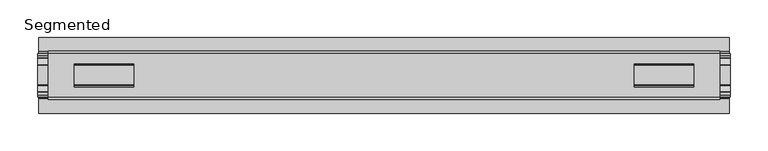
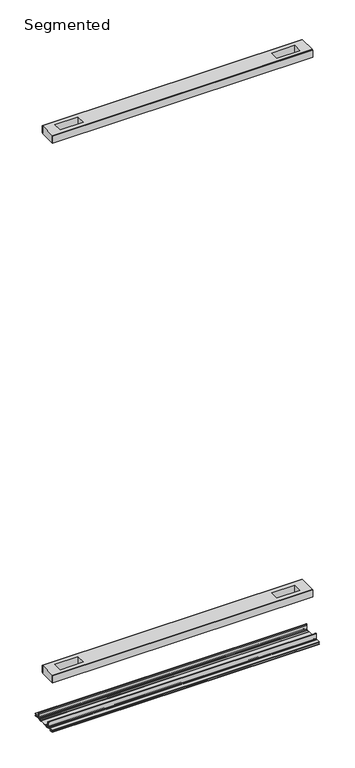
"""IFC4 building model written with IfcOpenShell, lengths in millimetres: proxy geometry, Frame-Teknion-FHCRA-Horizontal_Rail-R2022 : Segmented."""

from ifc_helpers import new_model, si_unit, point, frame, frame_2d, origin, place, context, project, spatial, polyline, circle_curve, trimmed, segment, composite_curve, outline, extrude, source, transform, mapped, element, save


def segmented_248272e7(model_context):
    return source(origin(), model_context, "Body", "SweptSolid", [
        extrude(outline(polyline([(445.1901765, -29.0068005), (445.1901765, -32.1817997), (-445.1901765, -32.1817997), (-445.1901765, -29.0068005), (445.1901765, -29.0068005)])), frame((0.0, 0.0, 2107.0117561), z_axis=(0.0, 0.0, 1.0), x_axis=(1.0, 0.0, 0.0)), (0.0, 0.0, 1.0), 25.3999939),
        extrude(outline(polyline([(445.1901765, 32.1817997), (445.1901765, 29.0068005), (-445.1901765, 29.0068005), (-445.1901765, 32.1817997), (445.1901765, 32.1817997)])), frame((0.0, 0.0, 2107.0117561), z_axis=(0.0, 0.0, 1.0), x_axis=(1.0, 0.0, 0.0)), (0.0, 0.0, 1.0), 25.3999939),
        extrude(outline(polyline([(445.1901765, 29.0068005), (445.1901765, -29.0068005), (-445.1901765, -29.0068005), (-445.1901765, 29.0068005), (445.1901765, 29.0068005)]), holes=[polyline([(410.7731639, 15.1130038), (331.7283521, 15.1130038), (331.7283521, -15.875003), (410.7731639, -15.875003), (410.7731639, 15.1130038)]), polyline([(-410.7731639, 15.1130038), (-410.7731639, -15.875003), (-331.7283521, -15.875003), (-331.7283521, 15.1130038), (-410.7731639, 15.1130038)])]), frame((0.0, 0.0, 2105.5901786), z_axis=(0.0, 0.0, 1.0), x_axis=(1.0, 0.0, 0.0)), (0.0, 0.0, 1.0), 27.9999988),
        extrude(outline(polyline([(445.1901765, -29.0068005), (445.1901765, -32.1817997), (-445.1901765, -32.1817997), (-445.1901765, -29.0068005), (445.1901765, -29.0068005)])), frame((0.0, 0.0, 149.8401622), z_axis=(0.0, 0.0, 1.0), x_axis=(1.0, 0.0, 0.0)), (0.0, 0.0, 1.0), 25.3999939),
        extrude(outline(polyline([(445.1901765, 32.1817997), (445.1901765, 29.0068005), (-445.1901765, 29.0068005), (-445.1901765, 32.1817997), (445.1901765, 32.1817997)])), frame((0.0, 0.0, 149.8401622), z_axis=(0.0, 0.0, 1.0), x_axis=(1.0, 0.0, 0.0)), (0.0, 0.0, 1.0), 25.3999939),
        extrude(outline(polyline([(445.1901765, 29.0068005), (445.1901765, -29.0068005), (-445.1901765, -29.0068005), (-445.1901765, 29.0068005), (445.1901765, 29.0068005)]), holes=[polyline([(410.7731639, 15.1130038), (331.7283521, 15.1130038), (331.7283521, -15.875003), (410.7731639, -15.875003), (410.7731639, 15.1130038)]), polyline([(-410.7731639, 15.1130038), (-410.7731639, -15.875003), (-331.7283521, -15.875003), (-331.7283521, 15.1130038), (-410.7731639, 15.1130038)])]), frame((0.0, 0.0, 148.4185847), z_axis=(0.0, 0.0, 1.0), x_axis=(1.0, 0.0, 0.0)), (0.0, 0.0, 1.0), 27.9999988),
        extrude(outline(composite_curve([segment(polyline([(-28.8162961, -7.7516037), (-28.8162961, 9.8607558)]), True, "CONTINUOUS"), segment(trimmed(circle_curve(frame_2d((-27.5970982, 9.8607558)), 1.2191979), [point((-28.8162961, 9.8607558))], [point((-26.3779003, 9.8607558))], False, "CARTESIAN"), True, "CONTINUOUS"), segment(polyline([(-26.3779003, 9.8607558), (-26.3779003, 5.9999563), (-27.6580769, 5.9999563), (-27.6580769, -7.7516037)]), True, "CONTINUOUS"), segment(trimmed(circle_curve(frame_2d((-26.6420561, -7.7516037)), 1.0160208), [point((-27.6580769, -7.7516037))], [point((-26.6485732, -8.7676036))], True, "CARTESIAN"), True, "CONTINUOUS"), segment(polyline([(-26.6485732, -8.7676036), (-22.7056226, -8.7676036), (-21.7922609, -8.968753)]), True, "CONTINUOUS"), segment(trimmed(circle_curve(frame_2d((-17.7673021, -6.1259382)), 4.9276657), [point((-21.7922609, -8.968753))], [point((-13.7423434, -8.968753))], True, "CARTESIAN"), True, "CONTINUOUS"), segment(polyline([(-13.7423434, -8.968753), (-12.8289726, -8.7676036), (13.2099722, -8.7676036), (14.123343, -8.968753)]), True, "CONTINUOUS"), segment(trimmed(circle_curve(frame_2d((18.1483018, -6.1259382)), 4.9276657), [point((14.123343, -8.968753))], [point((22.1732605, -8.968753))], True, "CARTESIAN"), True, "CONTINUOUS"), segment(polyline([(22.1732605, -8.968753), (23.0866222, -8.7676036), (27.0295728, -8.7676036)]), True, "CONTINUOUS"), segment(trimmed(circle_curve(frame_2d((27.0230557, -7.7516037)), 1.0160208), [point((27.0295728, -8.7676036))], [point((28.0390765, -7.7516037))], True, "CARTESIAN"), True, "CONTINUOUS"), segment(polyline([(28.0390765, -7.7516037), (28.0390765, 5.9999563), (26.7588999, 5.9999563), (26.7588999, 9.8607558)]), True, "CONTINUOUS"), segment(trimmed(circle_curve(frame_2d((27.9780978, 9.8607558)), 1.2191979), [point((26.7588999, 9.8607558))], [point((29.1972958, 9.8607558))], False, "CARTESIAN"), True, "CONTINUOUS"), segment(polyline([(29.1972958, 9.8607558), (29.1972958, -7.7516037)]), True, "CONTINUOUS"), segment(trimmed(circle_curve(frame_2d((27.0230557, -7.7516037)), 2.17424), [point((29.1972958, -7.7516037))], [point((27.0230557, -9.9258438))], False, "CARTESIAN"), True, "CONTINUOUS"), segment(polyline([(27.0230557, -9.9258438), (22.732069, -9.9258438)]), True, "CONTINUOUS"), segment(trimmed(circle_curve(frame_2d((18.1516545, -6.4800016)), 5.7318431), [point((22.732069, -9.9258438))], [point((13.57124, -9.9258438))], False, "CARTESIAN"), True, "CONTINUOUS"), segment(polyline([(13.57124, -9.9258438), (-13.1902404, -9.9258438)]), True, "CONTINUOUS"), segment(trimmed(circle_curve(frame_2d((-17.7706549, -6.4800016)), 5.7318431), [point((-13.1902404, -9.9258438))], [point((-22.3510694, -9.9258438))], False, "CARTESIAN"), True, "CONTINUOUS"), segment(polyline([(-22.3510694, -9.9258438), (-26.6420561, -9.9258438)]), True, "CONTINUOUS"), segment(trimmed(circle_curve(frame_2d((-26.6420561, -7.7516037)), 2.17424), [point((-26.6420561, -9.9258438))], [point((-28.8162961, -7.7516037))], False, "CARTESIAN"), True, "CONTINUOUS")], self_intersect=False)), frame((-459.2490674, 0.0, 0.0), z_axis=(1.0, 0.0, 0.0), x_axis=(0.0, 1.0, 0.0)), (0.0, 0.0, 1.0), 918.4981348),
        extrude(outline(composite_curve([segment(polyline([(-50.2668422, -13.9898438), (-50.2240211, -12.3388438), (-39.7827507, -12.3388438), (-39.7827507, -7.766844), (-50.2240211, -7.766844), (-50.2668422, -6.1158439), (-31.1784975, -6.1158439)]), True, "CONTINUOUS"), segment(trimmed(circle_curve(frame_2d((-31.1784975, -7.6398436)), 1.5239997), [point((-31.1784975, -6.1158439))], [point((-29.6544978, -7.6398436))], False, "CARTESIAN"), True, "CONTINUOUS"), segment(polyline([(-29.6544978, -7.6398436), (-29.6544978, -9.9258438), (-23.1058344, -9.9258438)]), True, "CONTINUOUS"), segment(trimmed(circle_curve(frame_2d((-17.7673021, -5.2268471)), 7.1119966), [point((-23.1058344, -9.9258438))], [point((-12.4287699, -9.9258438))], True, "CARTESIAN"), True, "CONTINUOUS"), segment(polyline([(-12.4287699, -9.9258438), (12.8097695, -9.9258438)]), True, "CONTINUOUS"), segment(trimmed(circle_curve(frame_2d((18.1483018, -5.2268471)), 7.1119966), [point((12.8097695, -9.9258438))], [point((23.486834, -9.9258438))], True, "CARTESIAN"), True, "CONTINUOUS"), segment(polyline([(23.486834, -9.9258438), (30.0354975, -9.9258438), (30.0354975, -7.7656583)]), True, "CONTINUOUS"), segment(trimmed(circle_curve(frame_2d((31.6864982, -7.7656583)), 1.6510007), [point((30.0354975, -7.7656583))], [point((31.6239218, -6.1158439))], False, "CARTESIAN"), True, "CONTINUOUS"), segment(polyline([(31.6239218, -6.1158439), (50.00625, -6.1158439), (50.00625, -7.766844), (40.1637503, -7.766844), (40.1637503, -12.3388438), (50.00625, -12.3388438), (50.00625, -13.9898438), (40.0367518, -13.9898438)]), True, "CONTINUOUS"), segment(trimmed(circle_curve(frame_2d((40.0367518, -12.4658438)), 1.524), [point((40.0367518, -13.9898438))], [point((38.5127519, -12.4658438))], False, "CARTESIAN"), True, "CONTINUOUS"), segment(polyline([(38.5127519, -12.4658438), (38.5127519, -7.766844), (31.686497, -7.766844), (31.686497, -10.0528438)]), True, "CONTINUOUS"), segment(trimmed(circle_curve(frame_2d((30.1624971, -10.0528438)), 1.524), [point((31.686497, -10.0528438))], [point((30.1624971, -11.5768438))], False, "CARTESIAN"), True, "CONTINUOUS"), segment(polyline([(30.1624971, -11.5768438), (23.6563549, -11.5768438)]), True, "CONTINUOUS"), segment(trimmed(circle_curve(frame_2d((18.1483018, -6.4968436)), 7.4930002), [point((23.6563549, -11.5768438))], [point((12.8904968, -11.8354331))], False, "CARTESIAN"), True, "CONTINUOUS"), segment(polyline([(12.8904968, -11.8354331), (-12.5094972, -11.8354331)]), True, "CONTINUOUS"), segment(trimmed(circle_curve(frame_2d((-17.7673021, -6.4968436)), 7.4930002), [point((-12.5094972, -11.8354331))], [point((-23.2753553, -11.5768438))], False, "CARTESIAN"), True, "CONTINUOUS"), segment(polyline([(-23.2753553, -11.5768438), (-29.7814974, -11.5768438)]), True, "CONTINUOUS"), segment(trimmed(circle_curve(frame_2d((-29.7814974, -10.0528438)), 1.524), [point((-29.7814974, -11.5768438))], [point((-31.3054974, -10.0528438))], False, "CARTESIAN"), True, "CONTINUOUS"), segment(polyline([(-31.3054974, -10.0528438), (-31.3054974, -7.766844), (-38.1317522, -7.766844), (-38.1317522, -12.4658438)]), True, "CONTINUOUS"), segment(trimmed(circle_curve(frame_2d((-39.6557522, -12.4658438)), 1.524), [point((-38.1317522, -12.4658438))], [point((-39.6557522, -13.9898438))], False, "CARTESIAN"), True, "CONTINUOUS"), segment(polyline([(-39.6557522, -13.9898438), (-50.2668422, -13.9898438)]), True, "CONTINUOUS")], self_intersect=False)), frame((-457.5980674, 0.0, 0.0), z_axis=(1.0, 0.0, 0.0), x_axis=(0.0, 1.0, 0.0)), (0.0, 0.0, 1.0), 915.1961348),
    ])


if __name__ == "__main__":
    model = new_model("IFC4")
    model_context = context("Model", 3, world=origin())
    ifc_project = project(units=[si_unit("LENGTHUNIT", "METRE", prefix="MILLI")], contexts=[model_context])
    site = spatial("IfcSite", under=ifc_project)
    building = spatial("IfcBuilding", under=site)
    placement = place(None, origin())
    segmented_shape = segmented_248272e7(model_context)
    element("IfcBuildingElementProxy", 1, Name="Frame-Teknion-FHCRA-Horizontal_Rail-R2022 : Segmented", ObjectType="Frame-Teknion-FHCRA-Horizontal_Rail-R2022 : Segmented", at=placement, inside=building, context=model_context, shape_type="MappedRepresentation", body=[
        mapped(segmented_shape, transform((0.0, 0.0, 0.0), x_axis=(1.0, 0.0, 0.0), y_axis=(0.0, 1.0, 0.0), z_axis=(0.0, 0.0, 1.0))),
    ])
    save(model, "model.ifc")
